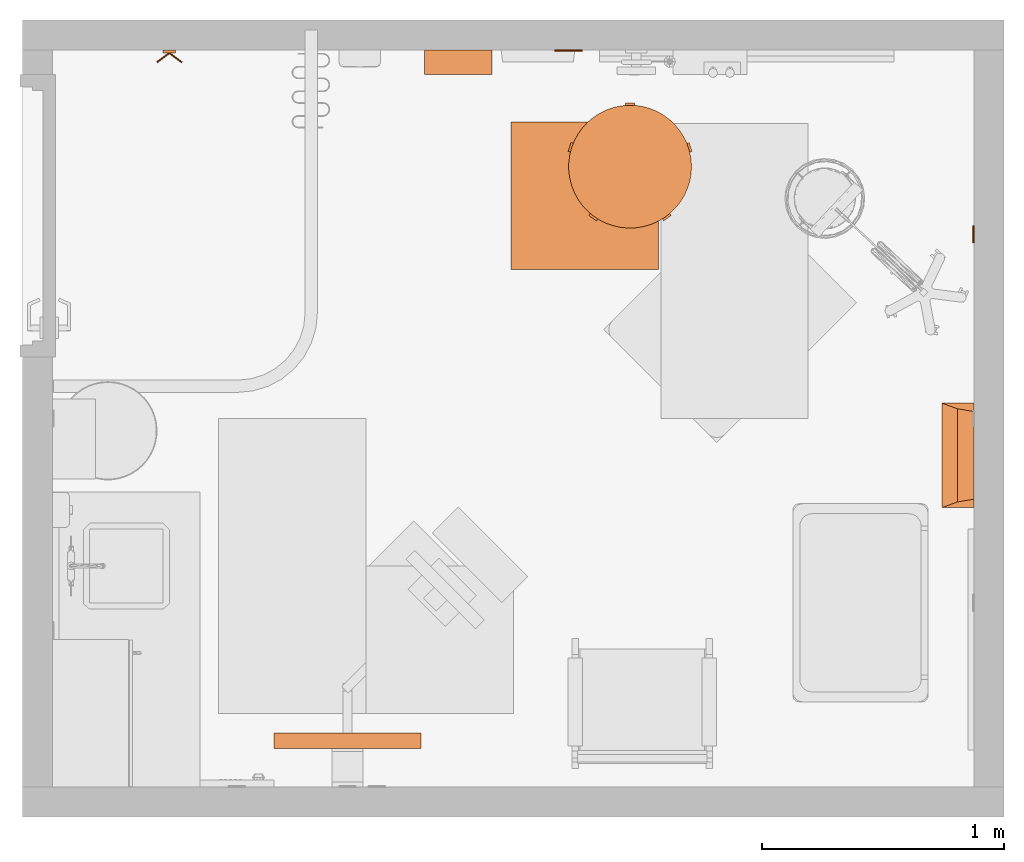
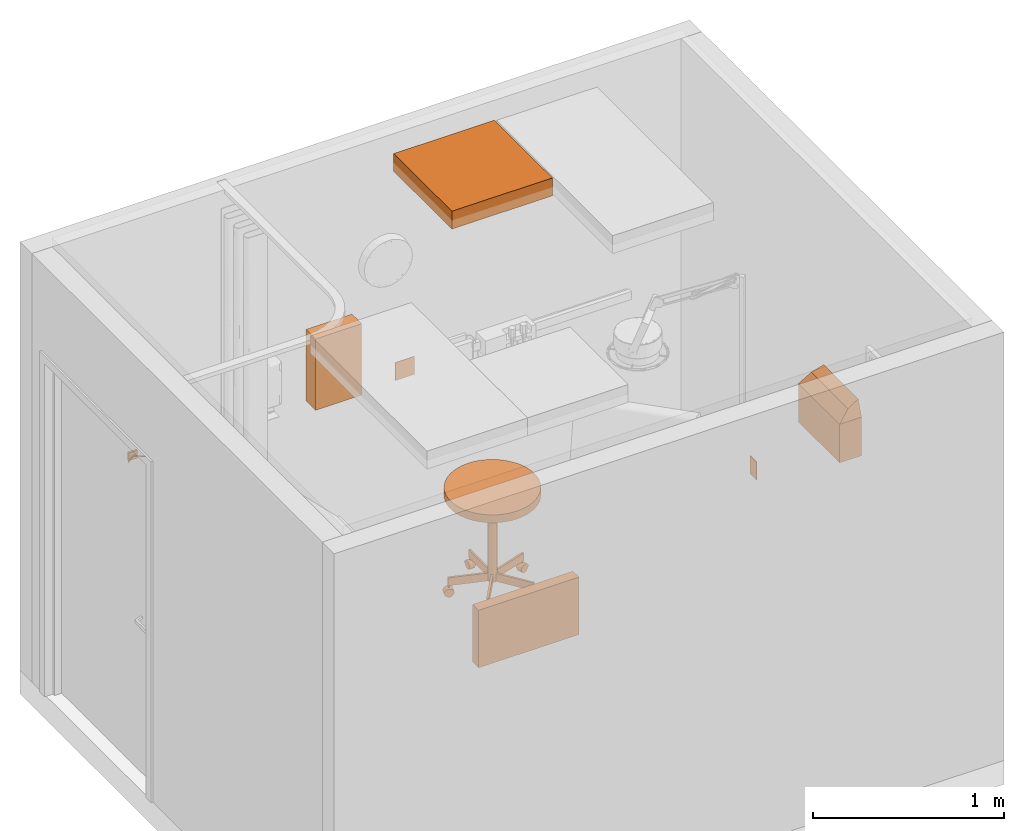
# One storey, part 6 of 9: 8 proxies.
"""IFC2X3 building model written with IfcOpenShell, lengths in feet."""

from ifc_helpers import new_model, entity, si_unit, converted_unit, derived_unit, direction, frame, frame_2d, origin, origin_2d_with_axis, place, context, subcontext, project, spatial, polyline, circle_curve, parameter, trimmed, segment, composite_curve, rectangle, circle, outline, extrude, faceted_brep, source, transform, mapped, type_object, type_shapes, element, save


model = new_model("IFC2X3")

# Units and contexts
model_context = context("Model", 3, precision=0.0001, world=origin(), true_north=direction((6.12303176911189e-17, 1.0)))
body_context = subcontext(model_context, "Body", "Model", "MODEL_VIEW")
ifc_project = project(units=[converted_unit("LENGTHUNIT", "FOOT", entity("IfcRatioMeasure", 0.3048), si_unit("LENGTHUNIT", "METRE"), dimensions=[1, 0, 0, 0, 0, 0, 0]), converted_unit("AREAUNIT", "SQUARE FOOT", entity("IfcRatioMeasure", 0.09290304), si_unit("AREAUNIT", "SQUARE_METRE"), dimensions=[2, 0, 0, 0, 0, 0, 0]), converted_unit("VOLUMEUNIT", "CUBIC FOOT", entity("IfcRatioMeasure", 0.028316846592), si_unit("VOLUMEUNIT", "CUBIC_METRE"), dimensions=[3, 0, 0, 0, 0, 0, 0]), converted_unit("PLANEANGLEUNIT", "DEGREE", entity("IfcRatioMeasure", 0.0174532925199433), si_unit("PLANEANGLEUNIT", "RADIAN"), dimensions=[0, 0, 0, 0, 0, 0, 0]), si_unit("MASSUNIT", "GRAM", prefix="KILO"), derived_unit("MASSDENSITYUNIT", [(si_unit("MASSUNIT", "GRAM", prefix="KILO"), 1), (si_unit("LENGTHUNIT", "METRE"), -3)]), si_unit("TIMEUNIT", "SECOND"), si_unit("FREQUENCYUNIT", "HERTZ"), si_unit("THERMODYNAMICTEMPERATUREUNIT", "DEGREE_CELSIUS"), derived_unit("THERMALTRANSMITTANCEUNIT", [(si_unit("MASSUNIT", "GRAM", prefix="KILO"), 1), (si_unit("THERMODYNAMICTEMPERATUREUNIT", "KELVIN"), -1), (si_unit("TIMEUNIT", "SECOND"), -3)]), derived_unit("VOLUMETRICFLOWRATEUNIT", [(si_unit("LENGTHUNIT", "METRE"), 3), (si_unit("TIMEUNIT", "SECOND"), -1)]), si_unit("ELECTRICCURRENTUNIT", "AMPERE"), si_unit("ELECTRICVOLTAGEUNIT", "VOLT"), si_unit("POWERUNIT", "WATT"), si_unit("FORCEUNIT", "NEWTON"), si_unit("ILLUMINANCEUNIT", "LUX"), si_unit("LUMINOUSFLUXUNIT", "LUMEN"), si_unit("LUMINOUSINTENSITYUNIT", "CANDELA"), derived_unit("USERDEFINED", [(si_unit("MASSUNIT", "GRAM", prefix="KILO"), -1), (si_unit("LENGTHUNIT", "METRE"), -2), (si_unit("TIMEUNIT", "SECOND"), 3), (si_unit("LUMINOUSFLUXUNIT", "LUMEN"), 1)]), derived_unit("LINEARVELOCITYUNIT", [(si_unit("LENGTHUNIT", "METRE"), 1), (si_unit("TIMEUNIT", "SECOND"), -1)]), si_unit("PRESSUREUNIT", "PASCAL"), derived_unit("USERDEFINED", [(si_unit("LENGTHUNIT", "METRE"), -2), (si_unit("MASSUNIT", "GRAM", prefix="KILO"), 1), (si_unit("TIMEUNIT", "SECOND"), -2)])], contexts=[model_context])

# Site, building, storey, space
site_placement = place(None, origin())
site = spatial("IfcSite", under=ifc_project, at=site_placement, Name="Default", CompositionType="ELEMENT")
building_placement = place(site_placement, origin())
building = spatial("IfcBuilding", under=site, at=building_placement, Name="OUTPATIENT / PACT CLINIC (Ch. 265)", CompositionType="ELEMENT")
storey_placement = place(building_placement, origin())
storey = spatial("IfcBuildingStorey", under=building, at=storey_placement, Name="DATUM", CompositionType="ELEMENT", Elevation=0.0)
space_placement = place(storey_placement, origin())
space = spatial("IfcSpace", under=storey, at=space_placement, Name="WRTM2", CompositionType="ELEMENT", InteriorOrExteriorSpace="INTERNAL")

# Proxies
building_element_proxy_type_1 = type_object("IfcBuildingElementProxyType", Name="A5145 - Hook, Garment, Double", PredefinedType="NOTDEFINED")
shared_shape_1 = source(origin(), body_context, "Body", "SweptSolid", [
    extrude(circle(Radius=0.0105952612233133, at=frame_2d((-1.64551454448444e-31, -4.16333634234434e-17), x_axis=(1.0, 0.0))), frame((-0.169086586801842, -0.168481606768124, 0.0833333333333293), z_axis=(0.799999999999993, 0.60000000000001, 0.0), x_axis=(0.60000000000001, -0.799999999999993, 0.0)), (0.0, 0.0, 1.0), 0.211358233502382),
    extrude(circle(Radius=0.0105952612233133, at=frame_2d((5.2041704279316e-19, 2.77555756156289e-17), x_axis=(1.0, 0.0))), frame((0.0, -0.0416666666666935, 0.083333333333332), z_axis=(0.799999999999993, -0.60000000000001, 0.0), x_axis=(-0.60000000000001, -0.799999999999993, 0.0)), (0.0, 0.0, 1.0), 0.211358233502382),
    extrude(rectangle(XDim=0.0416666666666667, YDim=0.166666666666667, at=origin_2d_with_axis()), frame((0.0, -0.0208333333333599, 0.0), z_axis=(0.0, 0.0, 1.0), x_axis=(0.0, 1.0, 0.0)), (0.0, 0.0, 1.0), 0.166666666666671),
])
type_shapes(building_element_proxy_type_1, [shared_shape_1])
proxy_1_placement = place(space_placement, frame((211.294820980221, -852.823304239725, 4.0)))
element("IfcBuildingElementProxy", 1, at=proxy_1_placement, inside=space, type_object=building_element_proxy_type_1, Name="A5145 - Hook, Garment, Double:A5145 - Hook, Garment, Double", ObjectType="A5145 - Hook, Garment, Double", context=body_context, shape_type="MappedRepresentation", body=[
    mapped(shared_shape_1, transform((0.0, 0.0, 0.0), scale=1.0)),
])
building_element_proxy_type_2 = type_object("IfcBuildingElementProxyType", Name="F0340 - Stool, Self Adjusting", PredefinedType="NOTDEFINED")
shared_shape_2 = source(origin(), body_context, "Body", "SweptSolid", [
    extrude(circle(Radius=0.084518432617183, at=frame_2d((0.0, -1.38777878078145e-16), x_axis=(1.0, 0.0))), frame((0.717011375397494, 0.287734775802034, 0.0845184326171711), z_axis=(0.309016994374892, -0.951056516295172, 0.0), x_axis=(-0.951056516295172, -0.309016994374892, 0.0)), (0.0, 0.0, 1.0), 0.104166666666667),
    extrude(outline(composite_curve([segment(polyline([(-0.0925649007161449, 0.0), (0.0925649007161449, 0.0)]), True, "CONTINUOUS"), segment(trimmed(circle_curve(origin_2d_with_axis(), 0.0925649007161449), [parameter(2.03555499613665e-13)], [parameter(180.0)], True, "PARAMETER"), True, "CONTINUOUS")], self_intersect=False)), frame((0.752419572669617, 0.178759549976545, 0.0845184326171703), z_axis=(-0.309016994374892, 0.951056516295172, 0.0), x_axis=(-0.951056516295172, -0.309016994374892, 0.0)), (0.0, 0.0, 1.0), 0.125),
    extrude(circle(Radius=0.0115130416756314, at=frame_2d((7.9106571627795e-18, 1.14165428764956e-16), x_axis=(1.0, 0.0))), frame((0.73310678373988, 0.238198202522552, 0.177083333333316), z_axis=(0.0, 0.0, 1.0), x_axis=(0.309016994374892, -0.951056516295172, 0.0)), (0.0, 0.0, 1.0), 0.0442708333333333),
    extrude(rectangle(XDim=0.0416641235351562, YDim=0.7059128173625, at=frame_2d((1.38777878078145e-17, 0.0), x_axis=(1.0, 0.0))), frame((0.412570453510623, 0.134049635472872, 0.221354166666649), z_axis=(0.0, 0.0, 1.0), x_axis=(-0.309016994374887, 0.951056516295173, 0.0)), (0.0, 0.0, 1.0), 0.166666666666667),
    extrude(circle(Radius=0.084518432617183, at=frame_2d((0.0, -3.7470027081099e-16), x_axis=(1.0, 0.0))), frame((0.410948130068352, -0.654231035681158, 0.0845184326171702), z_axis=(0.809016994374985, 0.587785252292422, 0.0), x_axis=(-0.587785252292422, 0.809016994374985, 0.0)), (0.0, 0.0, 1.0), 0.104166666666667),
    extrude(outline(composite_curve([segment(polyline([(-0.0925649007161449, 0.0), (0.0925649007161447, 0.0)]), True, "CONTINUOUS"), segment(trimmed(circle_curve(origin_2d_with_axis(), 0.0925649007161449), [parameter(2.03555499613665e-13)], [parameter(180.0)], True, "PARAMETER"), True, "CONTINUOUS")], self_intersect=False)), frame((0.402520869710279, -0.660353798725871, 0.0845184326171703), z_axis=(0.809016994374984, 0.587785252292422, 0.0), x_axis=(-0.587785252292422, 0.809016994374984, 0.0)), (0.0, 0.0, 1.0), 0.125),
    extrude(circle(Radius=0.0115130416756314, at=origin_2d_with_axis()), frame((0.453082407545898, -0.623618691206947, 0.177083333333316), z_axis=(0.0, 0.0, 1.0), x_axis=(-0.809016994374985, -0.587785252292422, 0.0)), (0.0, 0.0, 1.0), 0.0442708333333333),
    extrude(rectangle(XDim=0.0416641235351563, YDim=0.705912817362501, at=frame_2d((0.0, -1.38777878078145e-16), x_axis=(1.0, 0.0))), frame((0.254980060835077, -0.350954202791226, 0.221354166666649), z_axis=(0.0, 0.0, 1.0), x_axis=(0.809016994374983, 0.587785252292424, 0.0)), (0.0, 0.0, 1.0), 0.166666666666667),
    extrude(circle(Radius=0.084518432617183, at=frame_2d((-3.2628636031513e-17, -1.38777878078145e-16), x_axis=(1.0, 0.0))), frame((-0.410948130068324, -0.654231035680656, 0.0845184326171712), z_axis=(-0.809016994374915, 0.587785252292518, 0.0), x_axis=(0.587785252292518, 0.809016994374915, 0.0)), (0.0, 0.0, 1.0), 0.104166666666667),
    extrude(outline(composite_curve([segment(trimmed(circle_curve(origin_2d_with_axis(), 0.0925649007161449), [parameter(180.0)], [parameter(360.0)], True, "PARAMETER"), True, "CONTINUOUS"), segment(polyline([(0.0925649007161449, 0.0), (-0.0925649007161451, 0.0)]), True, "CONTINUOUS")], self_intersect=False)), frame((-0.402520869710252, -0.66035379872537, 0.0845184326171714), z_axis=(-0.809016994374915, 0.587785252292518, 0.0), x_axis=(0.587785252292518, 0.809016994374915, 0.0)), (0.0, 0.0, 1.0), 0.125),
    extrude(circle(Radius=0.0115130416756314, at=frame_2d((-4.49094647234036e-17, -3.2628636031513e-17), x_axis=(1.0, 0.0))), frame((-0.453086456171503, -0.623615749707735, 0.177083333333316), z_axis=(0.0, 0.0, 1.0), x_axis=(-0.809016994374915, 0.587785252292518, 0.0)), (0.0, 0.0, 1.0), 0.0442708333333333),
    extrude(rectangle(XDim=0.0416641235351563, YDim=0.7059128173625, at=frame_2d((-4.16333634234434e-17, 5.55111512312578e-17), x_axis=(1.0, 0.0))), frame((-0.254984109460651, -0.350951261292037, 0.221354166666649), z_axis=(0.0, 0.0, 1.0), x_axis=(0.809016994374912, -0.587785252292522, 0.0)), (0.0, 0.0, 1.0), 0.166666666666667),
    extrude(circle(Radius=0.084518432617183, at=frame_2d((0.0, -1.38777878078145e-16), x_axis=(1.0, 0.0))), frame((-0.749200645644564, 0.188666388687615, 0.0845184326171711), z_axis=(0.309016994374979, 0.951056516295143, 0.0), x_axis=(0.951056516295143, -0.309016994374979, 0.0)), (0.0, 0.0, 1.0), 0.104166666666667),
    extrude(outline(composite_curve([segment(trimmed(circle_curve(origin_2d_with_axis(), 0.0925649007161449), [parameter(180.0)], [parameter(360.0)], True, "PARAMETER"), True, "CONTINUOUS"), segment(polyline([(0.0925649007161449, 0.0), (-0.0925649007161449, 0.0)]), True, "CONTINUOUS")], self_intersect=False)), frame((-0.752419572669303, 0.178759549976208, 0.0845184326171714), z_axis=(0.309016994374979, 0.951056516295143, 0.0), x_axis=(0.951056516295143, -0.309016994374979, 0.0)), (0.0, 0.0, 1.0), 0.125),
    extrude(circle(Radius=0.0115130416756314, at=frame_2d((7.91065716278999e-18, -1.14165428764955e-16), x_axis=(1.0, 0.0))), frame((-0.733105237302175, 0.238202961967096, 0.177083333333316), z_axis=(0.0, 0.0, 1.0), x_axis=(0.309016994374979, 0.951056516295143, 0.0)), (0.0, 0.0, 1.0), 0.0442708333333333),
    extrude(rectangle(XDim=0.0416641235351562, YDim=0.7059128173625, at=origin_2d_with_axis()), frame((-0.412568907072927, 0.134054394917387, 0.221354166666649), z_axis=(0.0, 0.0, 1.0), x_axis=(-0.309016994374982, -0.951056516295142, 0.0)), (0.0, 0.0, 1.0), 0.166666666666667),
    extrude(circle(Radius=0.084518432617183, at=frame_2d((-1.76415182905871e-31, -1.38777878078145e-16), x_axis=(1.0, 0.0))), frame((-0.0520833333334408, 0.770833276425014, 0.0845184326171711), z_axis=(1.0, 0.0, 0.0), x_axis=(0.0, -1.0, 0.0)), (0.0, 0.0, 1.0), 0.104166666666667),
    extrude(outline(composite_curve([segment(trimmed(circle_curve(origin_2d_with_axis(), 0.0925649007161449), [parameter(180.0)], [parameter(360.0)], True, "PARAMETER"), True, "CONTINUOUS"), segment(polyline([(0.0925649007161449, 0.0), (-0.0925649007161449, 0.0)]), True, "CONTINUOUS")], self_intersect=False)), frame((-0.0625000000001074, 0.770833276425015, 0.0845184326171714), z_axis=(1.0, 0.0, 0.0), x_axis=(0.0, -1.0, 0.0)), (0.0, 0.0, 1.0), 0.125),
    extrude(circle(Radius=0.0115130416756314, at=frame_2d((7.04731412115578e-19, 1.79171670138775e-32), x_axis=(1.0, 0.0))), frame((2.50218814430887e-06, 0.770833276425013, 0.177083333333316)), (0.0, 0.0, 1.0), 0.0442708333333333),
    extrude(rectangle(XDim=0.0416641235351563, YDim=0.7059128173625, at=frame_2d((3.46944695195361e-18, 5.55111512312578e-17), x_axis=(1.0, 0.0))), frame((2.50218813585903e-06, 0.433801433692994, 0.221354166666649), z_axis=(0.0, 0.0, 1.0), x_axis=(-1.0, 0.0, 0.0)), (0.0, 0.0, 1.0), 0.166666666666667),
    extrude(circle(Radius=0.0834863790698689, at=frame_2d((2.89333175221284e-18, -1.34875966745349e-16), x_axis=(1.0, 0.0))), frame((0.0, 0.0, 0.221354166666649)), (0.0, 0.0, 1.0), 1.77864583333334),
    extrude(circle(Radius=0.833333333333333, at=frame_2d((2.28760446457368e-17, -1.34628714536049e-15), x_axis=(1.0, 0.0))), frame((0.0, 0.0, 2.0)), (0.0, 0.0, 1.0), 0.166666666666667),
])
type_shapes(building_element_proxy_type_2, [shared_shape_2])
proxy_2_placement = place(space_placement, frame((217.544820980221, -854.406637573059, 0.0)))
element("IfcBuildingElementProxy", 2, at=proxy_2_placement, inside=space, type_object=building_element_proxy_type_2, Name="F0340 - Stool, Self Adjusting:F0340 - Stool, Self Adjusting", ObjectType="F0340 - Stool, Self Adjusting", context=body_context, shape_type="MappedRepresentation", body=[
    mapped(shared_shape_2, transform((0.0, 0.0, 0.0), scale=1.0)),
])
building_element_proxy_type_3 = type_object("IfcBuildingElementProxyType", Name="A5107 - Dispenser, Glove, Surgical-Examination, Wall Mntd 10\"x 4\"", PredefinedType="NOTDEFINED")
shared_shape_3 = source(origin(), body_context, "Body", "SweptSolid", [
    extrude(rectangle(XDim=0.333333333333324, YDim=0.916666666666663, at=frame_2d((-1.38777878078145e-17, 0.0), x_axis=(1.0, 0.0))), frame((0.0, 0.166666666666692, 0.0), z_axis=(0.0, 0.0, 1.0), x_axis=(0.0, 1.0, 0.0)), (0.0, 0.0, 1.0), 1.5),
])
type_shapes(building_element_proxy_type_3, [shared_shape_3])
proxy_3_placement = place(space_placement, frame((215.211487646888, -852.823304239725, 4.0), z_axis=(0.0, 0.0, 1.0), x_axis=(-1.0, 0.0, 0.0)))
element("IfcBuildingElementProxy", 3, at=proxy_3_placement, inside=space, type_object=building_element_proxy_type_3, Name="A5107 - Dispenser, Glove, Surgical-Examination, Wall Mntd:A5107 - Dispenser, Glove, Surgical-Examination, Wall Mntd 10\"x 4\"", ObjectType="A5107 - Dispenser, Glove, Surgical-Examination, Wall Mntd 10\"x 4\"", context=body_context, shape_type="MappedRepresentation", body=[
    mapped(shared_shape_3, transform((0.0, 0.0, 0.0), scale=1.0)),
])
building_element_proxy_type_4 = type_object("IfcBuildingElementProxyType", Name="A5108 - Waste Disposal Unit, Sharps 17\"x 13\"", PredefinedType="NOTDEFINED")
shared_shape_4 = source(origin(), body_context, "Body", "Brep", [
    faceted_brep([(0.70833333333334, 0.0, 0.0), (-0.708333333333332, 0.0, 0.0), (-0.708333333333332, 0.437500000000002, 0.0), (0.70833333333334, 0.437500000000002, 0.0), (0.70833333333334, 0.437500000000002, 0.810989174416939), (0.70833333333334, 0.0025667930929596, 0.810989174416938), (0.70833333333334, 0.0, 0.808422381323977), (-0.708333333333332, 0.437500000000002, 0.810989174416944), (-0.594042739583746, 0.437500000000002, 1.125), (0.594042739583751, 0.437500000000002, 1.125), (-0.708333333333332, 0.0, 0.808422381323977), (-0.708333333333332, 0.00256679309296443, 0.810989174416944), (0.632497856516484, 0.210923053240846, 1.01934543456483), (-0.632497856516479, 0.210923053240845, 1.01934543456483)], [[[0, 1, 2, 3]], [[0, 3, 4, 5, 6]], [[3, 2, 7, 8, 9, 4]], [[2, 1, 10, 11, 7]], [[1, 0, 6, 10]], [[10, 6, 5, 12, 13, 11]], [[12, 9, 8, 13]], [[5, 4, 9, 12]], [[8, 7, 11, 13]]]),
])
type_shapes(building_element_proxy_type_4, [shared_shape_4])
proxy_4_placement = place(storey_placement, frame((221.773987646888, -858.323304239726, 4.0), z_axis=(0.0, 0.0, 1.0), x_axis=(0.0, -1.0, 0.0)))
element("IfcBuildingElementProxy", 4, at=proxy_4_placement, inside=storey, type_object=building_element_proxy_type_4, Name="A5108 - Waste Disposal Unit, Sharps:A5108 - Waste Disposal Unit, Sharps 17\"x 13\"", ObjectType="A5108 - Waste Disposal Unit, Sharps 17\"x 13\"", context=body_context, shape_type="MappedRepresentation", body=[
    mapped(shared_shape_4, transform((0.0, 0.0, 0.0), scale=1.0)),
])
building_element_proxy_type_5 = type_object("IfcBuildingElementProxyType", Name="M0506 - Television, Flat Screen", PredefinedType="NOTDEFINED")
shared_shape_5 = source(origin(), body_context, "Body", "Brep", [
    faceted_brep([(2.0, 0.0, 1.20833333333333), (0.0, 0.0, 1.20833333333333), (0.0, 0.0, 0.0), (2.0, 0.0, 0.0), (0.0833333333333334, 0.0, 1.12696776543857), (1.91092359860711, 0.0, 1.12696776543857), (1.91092359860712, 0.0, 0.0853010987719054), (0.0833333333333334, 0.0, 0.0853010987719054), (2.0, 0.208333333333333, 1.20833333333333), (2.0, 0.208333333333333, 0.0), (0.0, 0.208333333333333, 0.0), (0.0, 0.208333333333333, 1.20833333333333), (1.91092359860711, 0.0295645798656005, 1.12696776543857), (0.0833333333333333, 0.0295645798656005, 1.12696776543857), (0.0833333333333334, 0.0295645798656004, 0.0853010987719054), (1.91092359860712, 0.0295645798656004, 0.0853010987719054)], [[[0, 1, 2, 3], [4, 5, 6, 7]], [[8, 9, 10, 11]], [[1, 0, 8, 11]], [[2, 1, 11, 10]], [[3, 2, 10, 9]], [[0, 3, 9, 8]], [[12, 13, 14, 15]], [[13, 12, 5, 4]], [[14, 13, 4, 7]], [[15, 14, 7, 6]], [[12, 15, 6, 5]]]),
])
type_shapes(building_element_proxy_type_5, [shared_shape_5])
proxy_5_placement = place(space_placement, frame((214.711507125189, -862.089970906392, 4.84709344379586), z_axis=(0.0, 0.0, 1.0), x_axis=(-1.0, 0.0, 0.0)))
element("IfcBuildingElementProxy", 5, at=proxy_5_placement, inside=space, type_object=building_element_proxy_type_5, Name="M0506 - Television, Flat Screen:M0506 - Television, Flat Screen", ObjectType="M0506 - Television, Flat Screen", context=body_context, shape_type="MappedRepresentation", body=[
    mapped(shared_shape_5, transform((0.0, 0.0, 0.0), scale=1.0)),
])
building_element_proxy_type_6 = type_object("IfcBuildingElementProxyType", Name="Duplex", PredefinedType="NOTDEFINED")
shared_shape_6 = source(origin(), body_context, "Body", "SweptSolid", [
    extrude(rectangle(XDim=0.0156249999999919, YDim=0.229166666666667, at=origin_2d_with_axis()), frame((0.0, 0.210937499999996, 0.0), z_axis=(0.0, 0.0, 1.0), x_axis=(0.0, 1.0, 0.0)), (0.0, 0.0, 1.0), 0.37500000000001),
])
type_shapes(building_element_proxy_type_6, [shared_shape_6])
proxy_6_placement = place(space_placement, frame((222.414612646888, -855.323304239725, 1.31250000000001), z_axis=(0.0, 0.0, 1.0), x_axis=(0.0, 1.0, 0.0)))
element("IfcBuildingElementProxy", 6, at=proxy_6_placement, inside=space, type_object=building_element_proxy_type_6, Name="Outlet, Duplex, Wall:Duplex", ObjectType="Duplex", context=body_context, shape_type="MappedRepresentation", body=[
    mapped(shared_shape_6, transform((0.0, 0.0, 0.0), scale=1.0)),
])
building_element_proxy_type_7 = type_object("IfcBuildingElementProxyType", Name="Quadraplex", PredefinedType="NOTDEFINED")
shared_shape_7 = source(origin(), body_context, "Body", "SweptSolid", [
    extrude(rectangle(XDim=0.0156249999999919, YDim=0.375, at=frame_2d((0.0, -5.55111512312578e-17), x_axis=(1.0, 0.0))), frame((0.0, 0.210937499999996, 0.0), z_axis=(0.0, 0.0, 1.0), x_axis=(0.0, 1.0, 0.0)), (0.0, 0.0, 1.0), 0.375000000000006),
])
type_shapes(building_element_proxy_type_7, [shared_shape_7])
proxy_7_placement = place(space_placement, frame((216.71146357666, -852.620179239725, 3.8125), z_axis=(0.0, 0.0, 1.0), x_axis=(-1.0, 0.0, 0.0)))
element("IfcBuildingElementProxy", 7, at=proxy_7_placement, inside=space, type_object=building_element_proxy_type_7, Name="Outlet, Quadraplex, Wall:Quadraplex", ObjectType="Quadraplex", context=body_context, shape_type="MappedRepresentation", body=[
    mapped(shared_shape_7, transform((0.0, 0.0, 0.0), scale=1.0)),
])
building_element_proxy_type_8 = type_object("IfcBuildingElementProxyType", Name="24\" x 24\"", PredefinedType="NOTDEFINED")
shared_shape_8 = source(origin(), body_context, "Body", "SweptSolid", [
    extrude(rectangle(XDim=2.0, YDim=2.0, at=origin_2d_with_axis()), frame((0.0, 0.0, 8.0)), (0.0, 0.0, 1.0), 0.375),
])
type_shapes(building_element_proxy_type_8, [shared_shape_8])
proxy_8_placement = place(space_placement, frame((216.932807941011, -854.80237869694, 1.0)))
element("IfcBuildingElementProxy", 8, at=proxy_8_placement, inside=space, type_object=building_element_proxy_type_8, Name="Return Register:24\" x 24\"", ObjectType="24\" x 24\"", context=body_context, shape_type="MappedRepresentation", body=[
    mapped(shared_shape_8, transform((0.0, 0.0, 0.0), scale=1.0)),
])

save(model, "model.ifc")
